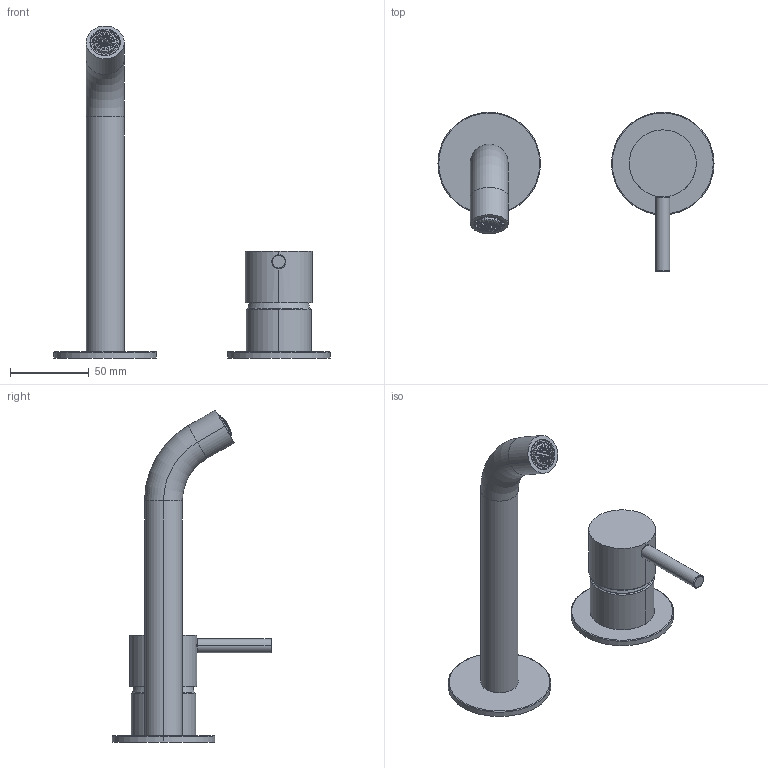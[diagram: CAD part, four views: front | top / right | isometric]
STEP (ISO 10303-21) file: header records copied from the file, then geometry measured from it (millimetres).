
FILE_DESCRIPTION((''),'2;1');
FILE_NAME('50000E811B000000_SW0001','2025-03-11T09:02:59',('cristian.dorz'),(''),'CREO PARAMETRIC BY PTC INC, 2022281','CREO PARAMETRIC BY PTC INC, 2022281','');
FILE_SCHEMA(('AUTOMOTIVE_DESIGN { 1 0 10303 214 1 1 1 1 }'));
Length unit declared in the file: millimetre
Products named in the file (1): 50000E811B000000_SW0001
Bounding box: 175 x 101.2 x 210.39 mm (x, y, z)
Volume: 207015.7 mm3; surface area: 44946.2 mm2
Topology: 2 solids, 3 shells, 318 faces, 819 edges, 538 vertices
Faces by surface type: plane 249, cylinder 37, torus 22, cone 4, sphere 4, bspline 2
Entity records: 11220 total; most frequent: CARTESIAN_POINT 2594, DIRECTION 1800, ORIENTED_EDGE 1638, EDGE_CURVE 819, AXIS2_PLACEMENT_3D 666, VERTEX_POINT 538, VECTOR 465, LINE 465
